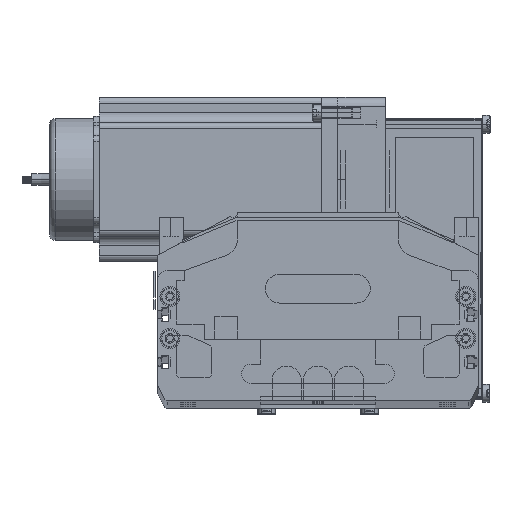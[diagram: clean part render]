
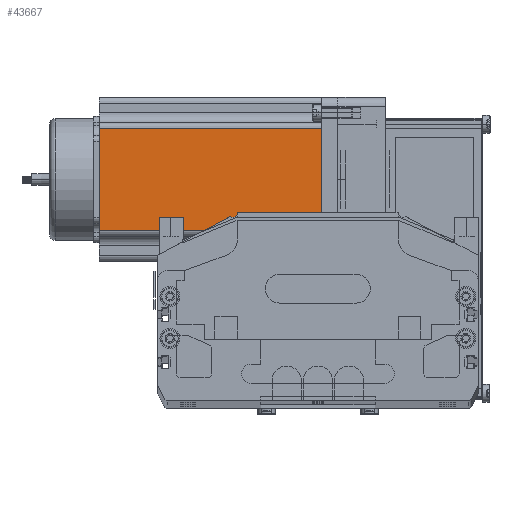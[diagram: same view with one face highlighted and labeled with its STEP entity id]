
A CAD part, top view. The second image highlights one B-rep face of the part: STEP entity #43667.
In plain terms, the highlighted planar face has unit normal (0, 0, 1) as drawn and (0, -1, 0) by its records, which use the part's own axes.
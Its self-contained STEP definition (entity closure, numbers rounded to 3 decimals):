
#28605 = CARTESIAN_POINT ( 'NONE',  ( 16.16, 0., 116.5 ) ) ;
#28610 = FACE_OUTER_BOUND ( 'NONE', #42687, .T. ) ;
#28613 = CARTESIAN_POINT ( 'NONE',  ( 0., 0., 116.5 ) ) ;
#28615 = DIRECTION ( 'NONE',  ( 1., 0., 0. ) ) ;
#28616 = VECTOR ( 'NONE', #28615, 1000. ) ;
#28617 = CARTESIAN_POINT ( 'NONE',  ( 0., 0., 0. ) ) ;
#28618 = LINE ( 'NONE', #28617, #28616 ) ;
#28623 = PLANE ( 'NONE',  #28651 ) ;
#28624 = CARTESIAN_POINT ( 'NONE',  ( 69.74, 0., 116.5 ) ) ;
#28636 = DIRECTION ( 'NONE',  ( 0., 0., 1. ) ) ;
#28637 = DIRECTION ( 'NONE',  ( 0., 1., 0. ) ) ;
#28651 = AXIS2_PLACEMENT_3D ( 'NONE', #28613, #28637, #28636 ) ;
#28664 = DIRECTION ( 'NONE',  ( 0., 0., 1. ) ) ;
#28665 = VECTOR ( 'NONE', #28664, 1000. ) ;
#28666 = CARTESIAN_POINT ( 'NONE',  ( 69.74, 0., 116.5 ) ) ;
#28669 = LINE ( 'NONE', #28666, #28665 ) ;
#28674 = CARTESIAN_POINT ( 'NONE',  ( 69.74, 0., 0. ) ) ;
#29378 = CARTESIAN_POINT ( 'NONE',  ( 16.16, 0., 0. ) ) ;
#29561 = CARTESIAN_POINT ( 'NONE',  ( 16.16, 0., 116.5 ) ) ;
#29562 = LINE ( 'NONE', #29561, #29651 ) ;
#29650 = DIRECTION ( 'NONE',  ( 0., 0., -1. ) ) ;
#29651 = VECTOR ( 'NONE', #29650, 1000. ) ;
#29685 = DIRECTION ( 'NONE',  ( 1., 0., 0. ) ) ;
#29686 = VECTOR ( 'NONE', #29685, 1000. ) ;
#29694 = CARTESIAN_POINT ( 'NONE',  ( 0., 0., 116.5 ) ) ;
#29695 = LINE ( 'NONE', #29694, #29686 ) ;
#42687 = EDGE_LOOP ( 'NONE', ( #43670, #44270, #44282, #44290 ) ) ;
#43666 = EDGE_CURVE ( 'NONE', #44140, #43679, #28618, .T. ) ;
#43667 = ADVANCED_FACE ( 'NONE', ( #28610 ), #28623, .F. ) ;
#43668 = VERTEX_POINT ( 'NONE', #28605 ) ;
#43670 = ORIENTED_EDGE ( 'NONE', *, *, #43666, .T. ) ;
#43676 = VERTEX_POINT ( 'NONE', #28624 ) ;
#43679 = VERTEX_POINT ( 'NONE', #28674 ) ;
#43695 = EDGE_CURVE ( 'NONE', #43679, #43676, #28669, .T. ) ;
#44140 = VERTEX_POINT ( 'NONE', #29378 ) ;
#44270 = ORIENTED_EDGE ( 'NONE', *, *, #43695, .T. ) ;
#44274 = EDGE_CURVE ( 'NONE', #43668, #43676, #29695, .T. ) ;
#44282 = ORIENTED_EDGE ( 'NONE', *, *, #44274, .F. ) ;
#44283 = EDGE_CURVE ( 'NONE', #43668, #44140, #29562, .T. ) ;
#44290 = ORIENTED_EDGE ( 'NONE', *, *, #44283, .T. ) ;
